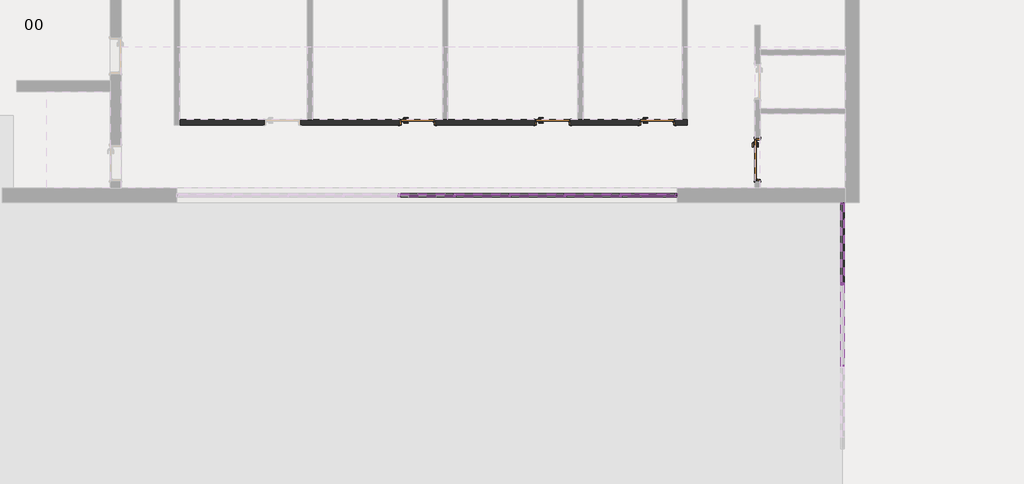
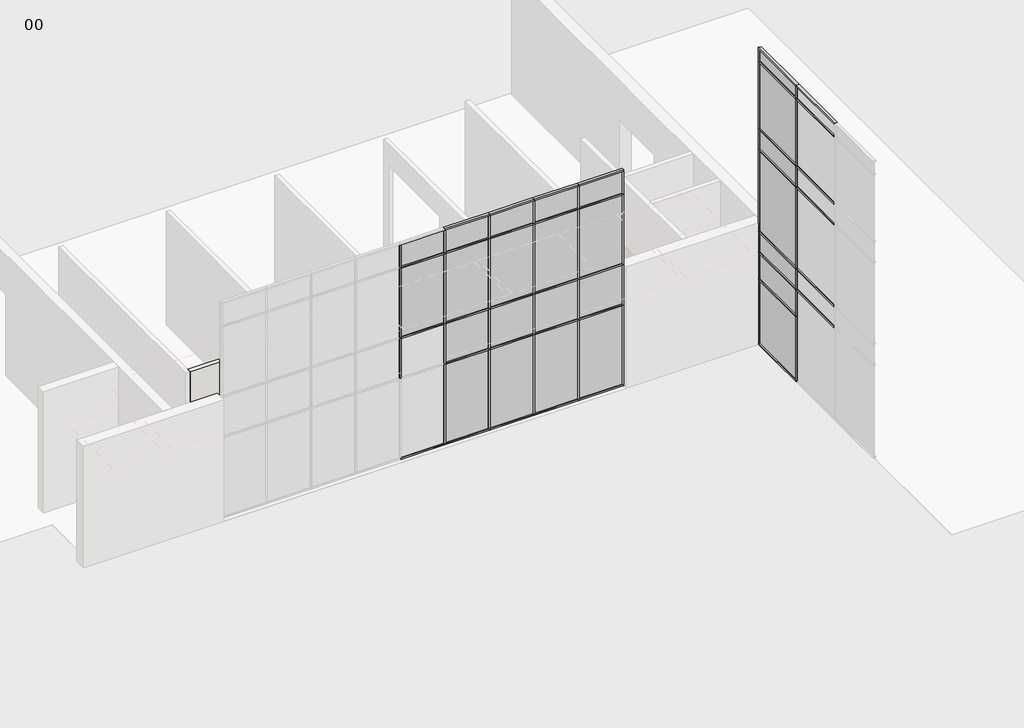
# One storey, part 3 of 11: 74 members, 25 plates, 4 doors, 1 wall.
"""IFC4 building model written with IfcOpenShell, lengths in millimetres."""

from ifc_helpers import new_model, si_unit, origin, place, context, project, spatial, faceted_brep, transform, mapped, element, save
from components import doors_intsgl_1_1010x2110mm_12a6edaf, doors_intsgl_1_1200x2110mm_07b1b6db, rectangular_mullion_curtainwallmullion_rectangular_generic_5675a122, rectangular_mullion_curtainwallmullion_rectangular_generic_397fb318, rectangular_mullion_curtainwallmullion_rectangular_generic_8ae0e668, rectangular_mullion_curtainwallmullion_rectangular_generic_15c16c91, rectangular_mullion_curtainwallmullion_rectangular_generic_85ff6675, rectangular_mullion_curtainwallmullion_rectangular_generic_08fbcc14, rectangular_mullion_curtainwallmullion_rectangular_generic_672c12ae, rectangular_mullion_curtainwallmullion_rectangular_generic_83e55909, rectangular_mullion_curtainwallmullion_rectangular_generic_8792b306, rectangular_mullion_curtainwallmullion_rectangular_generic_adcf4dab, rectangular_mullion_curtainwallmullion_rectangular_generic_bca74f28, rectangular_mullion_curtainwallmullion_rectangular_generic_1467ba8b, rectangular_mullion_curtainwallmullion_rectangular_generic_1facc6e8, rectangular_mullion_curtainwallmullion_rectangular_generic_766165b3, rectangular_mullion_curtainwallmullion_rectangular_generic_b870b509, rectangular_mullion_curtainwallmullion_rectangular_generic_bb021e59, rectangular_mullion_curtainwallmullion_rectangular_generic_58e5e5d2, rectangular_mullion_curtainwallmullion_rectangular_generic_c971d07e, rectangular_mullion_curtainwallmullion_rectangular_generic_e6673756, rectangular_mullion_curtainwallmullion_rectangular_generic_63c9f2cf, rectangular_mullion_curtainwallmullion_rectangular_generic_d70bf6dd, rectangular_mullion_curtainwallmullion_rectangular_generic_654ac675, rectangular_mullion_curtainwallmullion_rectangular_generic_e7c47ca9, rectangular_mullion_curtainwallmullion_rectangular_generic_f3eef52e, rectangular_mullion_curtainwallmullion_rectangular_generic_c0600e94, rectangular_mullion_curtainwallmullion_rectangular_generic_0bcd7f07, rectangular_mullion_curtainwallmullion_rectangular_generic_3bdb59d8, system_panel_curtainpanel_glazed_2a823346, system_panel_curtainpanel_glazed_29dab1f5, system_panel_curtainpanel_glazed_21ea604a, system_panel_curtainpanel_glazed_8c8521e7, system_panel_curtainpanel_glazed_c680861d, system_panel_curtainpanel_glazed_7c054268, system_panel_curtainpanel_solid_7e97e8f3, system_panel_curtainpanel_solid_a1b8920c, system_panel_curtainpanel_solid_5b00d7df, system_panel_curtainpanel_solid_a154ba9f

model = new_model("IFC4")

# Units and contexts
model_context = context("Model", 3, world=origin())
ifc_project = project(units=[si_unit("LENGTHUNIT", "METRE", prefix="MILLI")], contexts=[model_context])

# Site, building, storey
site = spatial("IfcSite", under=ifc_project)
building = spatial("IfcBuilding", under=site)
storey = spatial("IfcBuildingStorey", under=building, Name="00", Elevation=0.0)

# Doors
placement = place(None, origin())
doors_intsgl_1_1010x2110mm_shape = doors_intsgl_1_1010x2110mm_12a6edaf(model_context)
element("IfcDoor", 1, ObjectType="Doors_IntSgl_1 : 1010x2110mm", at=placement, inside=storey, context=model_context, shape_type="MappedRepresentation", body=[
    mapped(doors_intsgl_1_1010x2110mm_shape, transform((433683.3206883, -394469.0026386, 0.0), x_axis=(1.0, 0.0, 0.0), y_axis=(0.0, 1.0, 0.0), z_axis=(0.0, 0.0, 1.0))),
])
element("IfcDoor", 2, ObjectType="Doors_IntSgl_1 : 1010x2110mm", at=placement, inside=storey, context=model_context, shape_type="MappedRepresentation", body=[
    mapped(doors_intsgl_1_1010x2110mm_shape, transform((437493.3206883, -394469.0026386, 0.0), x_axis=(1.0, 0.0, 0.0), y_axis=(0.0, 1.0, 0.0), z_axis=(0.0, 0.0, 1.0))),
])
element("IfcDoor", 3, ObjectType="Doors_IntSgl_1 : 1010x2110mm", at=placement, inside=storey, context=model_context, shape_type="MappedRepresentation", body=[
    mapped(doors_intsgl_1_1010x2110mm_shape, transform((440437.3206883, -394469.0026386, 0.0), x_axis=(1.0, 0.0, 0.0), y_axis=(0.0, 1.0, 0.0), z_axis=(0.0, 0.0, 1.0))),
])
doors_intsgl_1_1200x2110mm_shape = doors_intsgl_1_1200x2110mm_07b1b6db(model_context)
element("IfcDoor", 4, ObjectType="Doors_IntSgl_1 : 1200x2110mm", at=placement, inside=storey, context=model_context, shape_type="MappedRepresentation", body=[
    mapped(doors_intsgl_1_1200x2110mm_shape, transform((443263.3206883, -395528.0026386, 0.0), x_axis=(0.0, -1.0, 0.0), y_axis=(1.0, 0.0, 0.0), z_axis=(0.0, 0.0, 1.0))),
])

# Members
rectangular_mullion_curtainwallmullion_rectangular_generic_shape = rectangular_mullion_curtainwallmullion_rectangular_generic_5675a122(model_context)
element("IfcMember", 5, ObjectType="Rectangular Mullion : CurtainWallMullion_Rectangular_Generic", at=placement, inside=storey, context=model_context, shape_type="MappedRepresentation", body=[
    mapped(rectangular_mullion_curtainwallmullion_rectangular_generic_shape, transform((445668.3206883, -399032.2026388, 50.0), x_axis=(0.0, 1.0, 0.0), y_axis=(1.0, 0.0, 0.0), z_axis=(0.0, 0.0, -1.0))),
])
rectangular_mullion_curtainwallmullion_rectangular_generic_2_shape = rectangular_mullion_curtainwallmullion_rectangular_generic_397fb318(model_context)
element("IfcMember", 6, ObjectType="Rectangular Mullion : CurtainWallMullion_Rectangular_Generic", at=placement, inside=storey, context=model_context, shape_type="MappedRepresentation", body=[
    mapped(rectangular_mullion_curtainwallmullion_rectangular_generic_2_shape, transform((445668.3206883, -396730.0026386, 50.0), x_axis=(0.0, 1.0, 0.0), y_axis=(1.0, 0.0, 0.0), z_axis=(0.0, 0.0, -1.0))),
])
rectangular_mullion_curtainwallmullion_rectangular_generic_3_shape = rectangular_mullion_curtainwallmullion_rectangular_generic_8ae0e668(model_context)
element("IfcMember", 7, ObjectType="Rectangular Mullion : CurtainWallMullion_Rectangular_Generic", at=placement, inside=storey, context=model_context, shape_type="MappedRepresentation", body=[
    mapped(rectangular_mullion_curtainwallmullion_rectangular_generic_3_shape, transform((445668.3206883, -399032.2026388, 10486.7), x_axis=(0.0, 1.0, 0.0), y_axis=(1.0, 0.0, 0.0), z_axis=(0.0, 0.0, -1.0))),
])
rectangular_mullion_curtainwallmullion_rectangular_generic_4_shape = rectangular_mullion_curtainwallmullion_rectangular_generic_15c16c91(model_context)
element("IfcMember", 8, ObjectType="Rectangular Mullion : CurtainWallMullion_Rectangular_Generic", at=placement, inside=storey, context=model_context, shape_type="MappedRepresentation", body=[
    mapped(rectangular_mullion_curtainwallmullion_rectangular_generic_4_shape, transform((445668.3206883, -396730.0026386, 10486.7), x_axis=(0.0, 1.0, 0.0), y_axis=(1.0, 0.0, 0.0), z_axis=(0.0, 0.0, -1.0))),
])
rectangular_mullion_curtainwallmullion_rectangular_generic_5_shape = rectangular_mullion_curtainwallmullion_rectangular_generic_85ff6675(model_context)
element("IfcMember", 9, ObjectType="Rectangular Mullion : CurtainWallMullion_Rectangular_Generic", at=placement, inside=storey, context=model_context, shape_type="MappedRepresentation", body=[
    mapped(rectangular_mullion_curtainwallmullion_rectangular_generic_5_shape, transform((445668.3206883, -399032.2026388, 3425.0), x_axis=(0.0, 1.0, 0.0), y_axis=(1.0, 0.0, 0.0), z_axis=(0.0, 0.0, -1.0))),
])
element("IfcMember", 10, ObjectType="Rectangular Mullion : CurtainWallMullion_Rectangular_Generic", at=placement, inside=storey, context=model_context, shape_type="MappedRepresentation", body=[
    mapped(rectangular_mullion_curtainwallmullion_rectangular_generic_5_shape, transform((445668.3206883, -399032.2026388, 7225.0), x_axis=(0.0, 1.0, 0.0), y_axis=(1.0, 0.0, 0.0), z_axis=(0.0, 0.0, -1.0))),
])
rectangular_mullion_curtainwallmullion_rectangular_generic_6_shape = rectangular_mullion_curtainwallmullion_rectangular_generic_08fbcc14(model_context)
element("IfcMember", 11, ObjectType="Rectangular Mullion : CurtainWallMullion_Rectangular_Generic", at=placement, inside=storey, context=model_context, shape_type="MappedRepresentation", body=[
    mapped(rectangular_mullion_curtainwallmullion_rectangular_generic_6_shape, transform((445668.3206883, -399032.2026388, 8000.0), x_axis=(0.0, 1.0, 0.0), y_axis=(1.0, 0.0, 0.0), z_axis=(0.0, 0.0, -1.0))),
])
rectangular_mullion_curtainwallmullion_rectangular_generic_7_shape = rectangular_mullion_curtainwallmullion_rectangular_generic_672c12ae(model_context)
element("IfcMember", 12, ObjectType="Rectangular Mullion : CurtainWallMullion_Rectangular_Generic", at=placement, inside=storey, context=model_context, shape_type="MappedRepresentation", body=[
    mapped(rectangular_mullion_curtainwallmullion_rectangular_generic_7_shape, transform((445668.3206883, -396730.0026386, 7225.0), x_axis=(0.0, 1.0, 0.0), y_axis=(1.0, 0.0, 0.0), z_axis=(0.0, 0.0, -1.0))),
])
element("IfcMember", 13, ObjectType="Rectangular Mullion : CurtainWallMullion_Rectangular_Generic", at=placement, inside=storey, context=model_context, shape_type="MappedRepresentation", body=[
    mapped(rectangular_mullion_curtainwallmullion_rectangular_generic_7_shape, transform((445668.3206883, -396730.0026386, 3425.0), x_axis=(0.0, 1.0, 0.0), y_axis=(1.0, 0.0, 0.0), z_axis=(0.0, 0.0, -1.0))),
])
rectangular_mullion_curtainwallmullion_rectangular_generic_8_shape = rectangular_mullion_curtainwallmullion_rectangular_generic_83e55909(model_context)
element("IfcMember", 14, ObjectType="Rectangular Mullion : CurtainWallMullion_Rectangular_Generic", at=placement, inside=storey, context=model_context, shape_type="MappedRepresentation", body=[
    mapped(rectangular_mullion_curtainwallmullion_rectangular_generic_8_shape, transform((445668.3206883, -396730.0026386, 8000.0), x_axis=(0.0, 1.0, 0.0), y_axis=(1.0, 0.0, 0.0), z_axis=(0.0, 0.0, -1.0))),
])
rectangular_mullion_curtainwallmullion_rectangular_generic_9_shape = rectangular_mullion_curtainwallmullion_rectangular_generic_8792b306(model_context)
element("IfcMember", 15, ObjectType="Rectangular Mullion : CurtainWallMullion_Rectangular_Generic", at=placement, inside=storey, context=model_context, shape_type="MappedRepresentation", body=[
    mapped(rectangular_mullion_curtainwallmullion_rectangular_generic_9_shape, transform((445668.3206883, -399032.2026388, 4200.0), x_axis=(0.0, 1.0, 0.0), y_axis=(1.0, 0.0, 0.0), z_axis=(0.0, 0.0, -1.0))),
])
rectangular_mullion_curtainwallmullion_rectangular_generic_10_shape = rectangular_mullion_curtainwallmullion_rectangular_generic_adcf4dab(model_context)
element("IfcMember", 16, ObjectType="Rectangular Mullion : CurtainWallMullion_Rectangular_Generic", at=placement, inside=storey, context=model_context, shape_type="MappedRepresentation", body=[
    mapped(rectangular_mullion_curtainwallmullion_rectangular_generic_10_shape, transform((445668.3206883, -396730.0026386, 4200.0), x_axis=(0.0, 1.0, 0.0), y_axis=(1.0, 0.0, 0.0), z_axis=(0.0, 0.0, -1.0))),
])
rectangular_mullion_curtainwallmullion_rectangular_generic_11_shape = rectangular_mullion_curtainwallmullion_rectangular_generic_bca74f28(model_context)
element("IfcMember", 17, ObjectType="Rectangular Mullion : CurtainWallMullion_Rectangular_Generic", at=placement, inside=storey, context=model_context, shape_type="MappedRepresentation", body=[
    mapped(rectangular_mullion_curtainwallmullion_rectangular_generic_11_shape, transform((445668.3206883, -399032.2026388, 2425.0), x_axis=(0.0, 1.0, 0.0), y_axis=(1.0, 0.0, 0.0), z_axis=(0.0, 0.0, -1.0))),
])
rectangular_mullion_curtainwallmullion_rectangular_generic_12_shape = rectangular_mullion_curtainwallmullion_rectangular_generic_1467ba8b(model_context)
element("IfcMember", 18, ObjectType="Rectangular Mullion : CurtainWallMullion_Rectangular_Generic", at=placement, inside=storey, context=model_context, shape_type="MappedRepresentation", body=[
    mapped(rectangular_mullion_curtainwallmullion_rectangular_generic_12_shape, transform((445668.3206883, -396730.0026386, 2425.0), x_axis=(0.0, 1.0, 0.0), y_axis=(1.0, 0.0, 0.0), z_axis=(0.0, 0.0, -1.0))),
])
rectangular_mullion_curtainwallmullion_rectangular_generic_13_shape = rectangular_mullion_curtainwallmullion_rectangular_generic_1facc6e8(model_context)
element("IfcMember", 19, ObjectType="Rectangular Mullion : CurtainWallMullion_Rectangular_Generic", at=placement, inside=storey, context=model_context, shape_type="MappedRepresentation", body=[
    mapped(rectangular_mullion_curtainwallmullion_rectangular_generic_13_shape, transform((445668.3206883, -396730.0026386, 11000.0), x_axis=(0.0, 0.0, 1.0), y_axis=(1.0, 0.0, 0.0), z_axis=(0.0, 1.0, 0.0))),
])
rectangular_mullion_curtainwallmullion_rectangular_generic_14_shape = rectangular_mullion_curtainwallmullion_rectangular_generic_766165b3(model_context)
element("IfcMember", 20, ObjectType="Rectangular Mullion : CurtainWallMullion_Rectangular_Generic", at=placement, inside=storey, context=model_context, shape_type="MappedRepresentation", body=[
    mapped(rectangular_mullion_curtainwallmullion_rectangular_generic_14_shape, transform((445668.3206883, -399032.2026388, 11000.0), x_axis=(0.0, 0.0, 1.0), y_axis=(1.0, 0.0, 0.0), z_axis=(0.0, 1.0, 0.0))),
])
rectangular_mullion_curtainwallmullion_rectangular_generic_15_shape = rectangular_mullion_curtainwallmullion_rectangular_generic_b870b509(model_context)
element("IfcMember", 21, ObjectType="Rectangular Mullion : CurtainWallMullion_Rectangular_Generic", at=placement, inside=storey, context=model_context, shape_type="MappedRepresentation", body=[
    mapped(rectangular_mullion_curtainwallmullion_rectangular_generic_15_shape, transform((445668.3206883, -399057.2026388, 4200.0), x_axis=(0.0, 0.0, 1.0), y_axis=(1.0, 0.0, 0.0), z_axis=(0.0, 1.0, 0.0))),
])
element("IfcMember", 22, ObjectType="Rectangular Mullion : CurtainWallMullion_Rectangular_Generic", at=placement, inside=storey, context=model_context, shape_type="MappedRepresentation", body=[
    mapped(rectangular_mullion_curtainwallmullion_rectangular_generic_15_shape, transform((445668.3206883, -399057.2026388, 7225.0), x_axis=(0.0, 0.0, 1.0), y_axis=(1.0, 0.0, 0.0), z_axis=(0.0, 1.0, 0.0))),
])
element("IfcMember", 23, ObjectType="Rectangular Mullion : CurtainWallMullion_Rectangular_Generic", at=placement, inside=storey, context=model_context, shape_type="MappedRepresentation", body=[
    mapped(rectangular_mullion_curtainwallmullion_rectangular_generic_15_shape, transform((445668.3206883, -399057.2026388, 10486.7), x_axis=(0.0, 0.0, 1.0), y_axis=(1.0, 0.0, 0.0), z_axis=(0.0, 1.0, 0.0))),
])
element("IfcMember", 24, ObjectType="Rectangular Mullion : CurtainWallMullion_Rectangular_Generic", at=placement, inside=storey, context=model_context, shape_type="MappedRepresentation", body=[
    mapped(rectangular_mullion_curtainwallmullion_rectangular_generic_15_shape, transform((445668.3206883, -399057.2026388, 3425.0), x_axis=(0.0, 0.0, 1.0), y_axis=(1.0, 0.0, 0.0), z_axis=(0.0, 1.0, 0.0))),
])
element("IfcMember", 25, ObjectType="Rectangular Mullion : CurtainWallMullion_Rectangular_Generic", at=placement, inside=storey, context=model_context, shape_type="MappedRepresentation", body=[
    mapped(rectangular_mullion_curtainwallmullion_rectangular_generic_15_shape, transform((445668.3206883, -399057.2026388, 8000.0), x_axis=(0.0, 0.0, 1.0), y_axis=(1.0, 0.0, 0.0), z_axis=(0.0, 1.0, 0.0))),
])
element("IfcMember", 26, ObjectType="Rectangular Mullion : CurtainWallMullion_Rectangular_Generic", at=placement, inside=storey, context=model_context, shape_type="MappedRepresentation", body=[
    mapped(rectangular_mullion_curtainwallmullion_rectangular_generic_13_shape, transform((445668.3206883, -399032.2026388, 0.0), x_axis=(0.0, 0.0, -1.0), y_axis=(1.0, 0.0, 0.0), z_axis=(0.0, -1.0, 0.0))),
])
rectangular_mullion_curtainwallmullion_rectangular_generic_16_shape = rectangular_mullion_curtainwallmullion_rectangular_generic_bb021e59(model_context)
element("IfcMember", 27, ObjectType="Rectangular Mullion : CurtainWallMullion_Rectangular_Generic", at=placement, inside=storey, context=model_context, shape_type="MappedRepresentation", body=[
    mapped(rectangular_mullion_curtainwallmullion_rectangular_generic_16_shape, transform((445668.3206883, -396780.0026386, 2425.0), x_axis=(0.0, 0.0, 1.0), y_axis=(1.0, 0.0, 0.0), z_axis=(0.0, 1.0, 0.0))),
])
element("IfcMember", 28, ObjectType="Rectangular Mullion : CurtainWallMullion_Rectangular_Generic", at=placement, inside=storey, context=model_context, shape_type="MappedRepresentation", body=[
    mapped(rectangular_mullion_curtainwallmullion_rectangular_generic_16_shape, transform((445668.3206883, -396780.0026386, 4200.0), x_axis=(0.0, 0.0, 1.0), y_axis=(1.0, 0.0, 0.0), z_axis=(0.0, 1.0, 0.0))),
])
element("IfcMember", 29, ObjectType="Rectangular Mullion : CurtainWallMullion_Rectangular_Generic", at=placement, inside=storey, context=model_context, shape_type="MappedRepresentation", body=[
    mapped(rectangular_mullion_curtainwallmullion_rectangular_generic_16_shape, transform((445668.3206883, -396780.0026386, 7225.0), x_axis=(0.0, 0.0, 1.0), y_axis=(1.0, 0.0, 0.0), z_axis=(0.0, 1.0, 0.0))),
])
element("IfcMember", 30, ObjectType="Rectangular Mullion : CurtainWallMullion_Rectangular_Generic", at=placement, inside=storey, context=model_context, shape_type="MappedRepresentation", body=[
    mapped(rectangular_mullion_curtainwallmullion_rectangular_generic_16_shape, transform((445668.3206883, -396780.0026386, 10486.7), x_axis=(0.0, 0.0, 1.0), y_axis=(1.0, 0.0, 0.0), z_axis=(0.0, 1.0, 0.0))),
])
element("IfcMember", 31, ObjectType="Rectangular Mullion : CurtainWallMullion_Rectangular_Generic", at=placement, inside=storey, context=model_context, shape_type="MappedRepresentation", body=[
    mapped(rectangular_mullion_curtainwallmullion_rectangular_generic_16_shape, transform((445668.3206883, -396780.0026386, 3425.0), x_axis=(0.0, 0.0, 1.0), y_axis=(1.0, 0.0, 0.0), z_axis=(0.0, 1.0, 0.0))),
])
element("IfcMember", 32, ObjectType="Rectangular Mullion : CurtainWallMullion_Rectangular_Generic", at=placement, inside=storey, context=model_context, shape_type="MappedRepresentation", body=[
    mapped(rectangular_mullion_curtainwallmullion_rectangular_generic_16_shape, transform((445668.3206883, -396780.0026386, 8000.0), x_axis=(0.0, 0.0, 1.0), y_axis=(1.0, 0.0, 0.0), z_axis=(0.0, 1.0, 0.0))),
])
rectangular_mullion_curtainwallmullion_rectangular_generic_17_shape = rectangular_mullion_curtainwallmullion_rectangular_generic_58e5e5d2(model_context)
element("IfcMember", 33, ObjectType="Rectangular Mullion : CurtainWallMullion_Rectangular_Generic", at=placement, inside=storey, context=model_context, shape_type="MappedRepresentation", body=[
    mapped(rectangular_mullion_curtainwallmullion_rectangular_generic_17_shape, transform((439411.209577, -396529.0026386, 8000.0), x_axis=(0.0, 0.0, 1.0), y_axis=(0.0, 1.0, 0.0), z_axis=(-1.0, 0.0, 0.0))),
])
rectangular_mullion_curtainwallmullion_rectangular_generic_18_shape = rectangular_mullion_curtainwallmullion_rectangular_generic_c971d07e(model_context)
element("IfcMember", 34, ObjectType="Rectangular Mullion : CurtainWallMullion_Rectangular_Generic", at=placement, inside=storey, context=model_context, shape_type="MappedRepresentation", body=[
    mapped(rectangular_mullion_curtainwallmullion_rectangular_generic_18_shape, transform((437850.0984659, -396529.0026386, 8000.0), x_axis=(0.0, 0.0, 1.0), y_axis=(0.0, 1.0, 0.0), z_axis=(-1.0, 0.0, 0.0))),
])
element("IfcMember", 35, ObjectType="Rectangular Mullion : CurtainWallMullion_Rectangular_Generic", at=placement, inside=storey, context=model_context, shape_type="MappedRepresentation", body=[
    mapped(rectangular_mullion_curtainwallmullion_rectangular_generic_18_shape, transform((436288.9873549, -396529.0026386, 8000.0), x_axis=(0.0, 0.0, 1.0), y_axis=(0.0, 1.0, 0.0), z_axis=(-1.0, 0.0, 0.0))),
])
element("IfcMember", 36, ObjectType="Rectangular Mullion : CurtainWallMullion_Rectangular_Generic", at=placement, inside=storey, context=model_context, shape_type="MappedRepresentation", body=[
    mapped(rectangular_mullion_curtainwallmullion_rectangular_generic_18_shape, transform((434727.8762438, -396529.0026386, 8000.0), x_axis=(0.0, 0.0, 1.0), y_axis=(0.0, 1.0, 0.0), z_axis=(-1.0, 0.0, 0.0))),
])
element("IfcMember", 37, ObjectType="Rectangular Mullion : CurtainWallMullion_Rectangular_Generic", at=placement, inside=storey, context=model_context, shape_type="MappedRepresentation", body=[
    mapped(rectangular_mullion_curtainwallmullion_rectangular_generic_17_shape, transform((440997.3206883, -396529.0026386, 0.0), x_axis=(0.0, 0.0, -1.0), y_axis=(0.0, 1.0, 0.0), z_axis=(1.0, 0.0, 0.0))),
])
element("IfcMember", 38, ObjectType="Rectangular Mullion : CurtainWallMullion_Rectangular_Generic", at=placement, inside=storey, context=model_context, shape_type="MappedRepresentation", body=[
    mapped(rectangular_mullion_curtainwallmullion_rectangular_generic_18_shape, transform((439411.209577, -396529.0026386, 0.0), x_axis=(0.0, 0.0, -1.0), y_axis=(0.0, 1.0, 0.0), z_axis=(1.0, 0.0, 0.0))),
])
element("IfcMember", 39, ObjectType="Rectangular Mullion : CurtainWallMullion_Rectangular_Generic", at=placement, inside=storey, context=model_context, shape_type="MappedRepresentation", body=[
    mapped(rectangular_mullion_curtainwallmullion_rectangular_generic_18_shape, transform((437850.0984659, -396529.0026386, 0.0), x_axis=(0.0, 0.0, -1.0), y_axis=(0.0, 1.0, 0.0), z_axis=(1.0, 0.0, 0.0))),
])
element("IfcMember", 40, ObjectType="Rectangular Mullion : CurtainWallMullion_Rectangular_Generic", at=placement, inside=storey, context=model_context, shape_type="MappedRepresentation", body=[
    mapped(rectangular_mullion_curtainwallmullion_rectangular_generic_18_shape, transform((436288.9873549, -396529.0026386, 0.0), x_axis=(0.0, 0.0, -1.0), y_axis=(0.0, 1.0, 0.0), z_axis=(1.0, 0.0, 0.0))),
])
element("IfcMember", 41, ObjectType="Rectangular Mullion : CurtainWallMullion_Rectangular_Generic", at=placement, inside=storey, context=model_context, shape_type="MappedRepresentation", body=[
    mapped(rectangular_mullion_curtainwallmullion_rectangular_generic_18_shape, transform((434727.8762438, -396529.0026386, 0.0), x_axis=(0.0, 0.0, -1.0), y_axis=(0.0, 1.0, 0.0), z_axis=(1.0, 0.0, 0.0))),
])
rectangular_mullion_curtainwallmullion_rectangular_generic_19_shape = rectangular_mullion_curtainwallmullion_rectangular_generic_e6673756(model_context)
element("IfcMember", 42, ObjectType="Rectangular Mullion : CurtainWallMullion_Rectangular_Generic", at=placement, inside=storey, context=model_context, shape_type="MappedRepresentation", body=[
    mapped(rectangular_mullion_curtainwallmullion_rectangular_generic_19_shape, transform((439436.209577, -396529.0026386, 3000.0), x_axis=(0.0, 0.0, 1.0), y_axis=(0.0, 1.0, 0.0), z_axis=(-1.0, 0.0, 0.0))),
])
element("IfcMember", 43, ObjectType="Rectangular Mullion : CurtainWallMullion_Rectangular_Generic", at=placement, inside=storey, context=model_context, shape_type="MappedRepresentation", body=[
    mapped(rectangular_mullion_curtainwallmullion_rectangular_generic_19_shape, transform((437875.0984659, -396529.0026386, 3000.0), x_axis=(0.0, 0.0, 1.0), y_axis=(0.0, 1.0, 0.0), z_axis=(-1.0, 0.0, 0.0))),
])
element("IfcMember", 44, ObjectType="Rectangular Mullion : CurtainWallMullion_Rectangular_Generic", at=placement, inside=storey, context=model_context, shape_type="MappedRepresentation", body=[
    mapped(rectangular_mullion_curtainwallmullion_rectangular_generic_19_shape, transform((436313.9873549, -396529.0026386, 3000.0), x_axis=(0.0, 0.0, 1.0), y_axis=(0.0, 1.0, 0.0), z_axis=(-1.0, 0.0, 0.0))),
])
element("IfcMember", 45, ObjectType="Rectangular Mullion : CurtainWallMullion_Rectangular_Generic", at=placement, inside=storey, context=model_context, shape_type="MappedRepresentation", body=[
    mapped(rectangular_mullion_curtainwallmullion_rectangular_generic_19_shape, transform((434752.8762438, -396529.0026386, 3000.0), x_axis=(0.0, 0.0, 1.0), y_axis=(0.0, 1.0, 0.0), z_axis=(-1.0, 0.0, 0.0))),
])
element("IfcMember", 46, ObjectType="Rectangular Mullion : CurtainWallMullion_Rectangular_Generic", at=placement, inside=storey, context=model_context, shape_type="MappedRepresentation", body=[
    mapped(rectangular_mullion_curtainwallmullion_rectangular_generic_19_shape, transform((439436.209577, -396529.0026386, 4500.0), x_axis=(0.0, 0.0, 1.0), y_axis=(0.0, 1.0, 0.0), z_axis=(-1.0, 0.0, 0.0))),
])
element("IfcMember", 47, ObjectType="Rectangular Mullion : CurtainWallMullion_Rectangular_Generic", at=placement, inside=storey, context=model_context, shape_type="MappedRepresentation", body=[
    mapped(rectangular_mullion_curtainwallmullion_rectangular_generic_19_shape, transform((437875.0984659, -396529.0026386, 4500.0), x_axis=(0.0, 0.0, 1.0), y_axis=(0.0, 1.0, 0.0), z_axis=(-1.0, 0.0, 0.0))),
])
element("IfcMember", 48, ObjectType="Rectangular Mullion : CurtainWallMullion_Rectangular_Generic", at=placement, inside=storey, context=model_context, shape_type="MappedRepresentation", body=[
    mapped(rectangular_mullion_curtainwallmullion_rectangular_generic_19_shape, transform((436313.9873549, -396529.0026386, 4500.0), x_axis=(0.0, 0.0, 1.0), y_axis=(0.0, 1.0, 0.0), z_axis=(-1.0, 0.0, 0.0))),
])
element("IfcMember", 49, ObjectType="Rectangular Mullion : CurtainWallMullion_Rectangular_Generic", at=placement, inside=storey, context=model_context, shape_type="MappedRepresentation", body=[
    mapped(rectangular_mullion_curtainwallmullion_rectangular_generic_19_shape, transform((434752.8762438, -396529.0026386, 4500.0), x_axis=(0.0, 0.0, 1.0), y_axis=(0.0, 1.0, 0.0), z_axis=(-1.0, 0.0, 0.0))),
])
element("IfcMember", 50, ObjectType="Rectangular Mullion : CurtainWallMullion_Rectangular_Generic", at=placement, inside=storey, context=model_context, shape_type="MappedRepresentation", body=[
    mapped(rectangular_mullion_curtainwallmullion_rectangular_generic_19_shape, transform((433191.7651328, -396529.0026386, 4500.0), x_axis=(0.0, 0.0, 1.0), y_axis=(0.0, 1.0, 0.0), z_axis=(-1.0, 0.0, 0.0))),
])
element("IfcMember", 51, ObjectType="Rectangular Mullion : CurtainWallMullion_Rectangular_Generic", at=placement, inside=storey, context=model_context, shape_type="MappedRepresentation", body=[
    mapped(rectangular_mullion_curtainwallmullion_rectangular_generic_19_shape, transform((439436.209577, -396529.0026386, 7100.0), x_axis=(0.0, 0.0, 1.0), y_axis=(0.0, 1.0, 0.0), z_axis=(-1.0, 0.0, 0.0))),
])
element("IfcMember", 52, ObjectType="Rectangular Mullion : CurtainWallMullion_Rectangular_Generic", at=placement, inside=storey, context=model_context, shape_type="MappedRepresentation", body=[
    mapped(rectangular_mullion_curtainwallmullion_rectangular_generic_19_shape, transform((437875.0984659, -396529.0026386, 7100.0), x_axis=(0.0, 0.0, 1.0), y_axis=(0.0, 1.0, 0.0), z_axis=(-1.0, 0.0, 0.0))),
])
element("IfcMember", 53, ObjectType="Rectangular Mullion : CurtainWallMullion_Rectangular_Generic", at=placement, inside=storey, context=model_context, shape_type="MappedRepresentation", body=[
    mapped(rectangular_mullion_curtainwallmullion_rectangular_generic_19_shape, transform((436313.9873549, -396529.0026386, 7100.0), x_axis=(0.0, 0.0, 1.0), y_axis=(0.0, 1.0, 0.0), z_axis=(-1.0, 0.0, 0.0))),
])
element("IfcMember", 54, ObjectType="Rectangular Mullion : CurtainWallMullion_Rectangular_Generic", at=placement, inside=storey, context=model_context, shape_type="MappedRepresentation", body=[
    mapped(rectangular_mullion_curtainwallmullion_rectangular_generic_19_shape, transform((434752.8762438, -396529.0026386, 7100.0), x_axis=(0.0, 0.0, 1.0), y_axis=(0.0, 1.0, 0.0), z_axis=(-1.0, 0.0, 0.0))),
])
element("IfcMember", 55, ObjectType="Rectangular Mullion : CurtainWallMullion_Rectangular_Generic", at=placement, inside=storey, context=model_context, shape_type="MappedRepresentation", body=[
    mapped(rectangular_mullion_curtainwallmullion_rectangular_generic_19_shape, transform((433191.7651328, -396529.0026386, 7100.0), x_axis=(0.0, 0.0, 1.0), y_axis=(0.0, 1.0, 0.0), z_axis=(-1.0, 0.0, 0.0))),
])
rectangular_mullion_curtainwallmullion_rectangular_generic_20_shape = rectangular_mullion_curtainwallmullion_rectangular_generic_63c9f2cf(model_context)
element("IfcMember", 56, ObjectType="Rectangular Mullion : CurtainWallMullion_Rectangular_Generic", at=placement, inside=storey, context=model_context, shape_type="MappedRepresentation", body=[
    mapped(rectangular_mullion_curtainwallmullion_rectangular_generic_20_shape, transform((439411.209577, -396529.0026386, 7100.0), x_axis=(-1.0, 0.0, 0.0), y_axis=(0.0, 1.0, 0.0), z_axis=(0.0, 0.0, -1.0))),
])
element("IfcMember", 57, ObjectType="Rectangular Mullion : CurtainWallMullion_Rectangular_Generic", at=placement, inside=storey, context=model_context, shape_type="MappedRepresentation", body=[
    mapped(rectangular_mullion_curtainwallmullion_rectangular_generic_20_shape, transform((437850.0984659, -396529.0026386, 7100.0), x_axis=(-1.0, 0.0, 0.0), y_axis=(0.0, 1.0, 0.0), z_axis=(0.0, 0.0, -1.0))),
])
element("IfcMember", 58, ObjectType="Rectangular Mullion : CurtainWallMullion_Rectangular_Generic", at=placement, inside=storey, context=model_context, shape_type="MappedRepresentation", body=[
    mapped(rectangular_mullion_curtainwallmullion_rectangular_generic_20_shape, transform((436288.9873549, -396529.0026386, 7100.0), x_axis=(-1.0, 0.0, 0.0), y_axis=(0.0, 1.0, 0.0), z_axis=(0.0, 0.0, -1.0))),
])
element("IfcMember", 59, ObjectType="Rectangular Mullion : CurtainWallMullion_Rectangular_Generic", at=placement, inside=storey, context=model_context, shape_type="MappedRepresentation", body=[
    mapped(rectangular_mullion_curtainwallmullion_rectangular_generic_20_shape, transform((434727.8762438, -396529.0026386, 7100.0), x_axis=(-1.0, 0.0, 0.0), y_axis=(0.0, 1.0, 0.0), z_axis=(0.0, 0.0, -1.0))),
])
element("IfcMember", 60, ObjectType="Rectangular Mullion : CurtainWallMullion_Rectangular_Generic", at=placement, inside=storey, context=model_context, shape_type="MappedRepresentation", body=[
    mapped(rectangular_mullion_curtainwallmullion_rectangular_generic_20_shape, transform((433166.7651328, -396529.0026386, 7100.0), x_axis=(-1.0, 0.0, 0.0), y_axis=(0.0, 1.0, 0.0), z_axis=(0.0, 0.0, -1.0))),
])
rectangular_mullion_curtainwallmullion_rectangular_generic_21_shape = rectangular_mullion_curtainwallmullion_rectangular_generic_d70bf6dd(model_context)
element("IfcMember", 61, ObjectType="Rectangular Mullion : CurtainWallMullion_Rectangular_Generic", at=placement, inside=storey, context=model_context, shape_type="MappedRepresentation", body=[
    mapped(rectangular_mullion_curtainwallmullion_rectangular_generic_21_shape, transform((440997.3206883, -396529.0026386, 7950.0), x_axis=(1.0, 0.0, 0.0), y_axis=(0.0, 1.0, 0.0), z_axis=(0.0, 0.0, 1.0))),
])
rectangular_mullion_curtainwallmullion_rectangular_generic_22_shape = rectangular_mullion_curtainwallmullion_rectangular_generic_654ac675(model_context)
element("IfcMember", 62, ObjectType="Rectangular Mullion : CurtainWallMullion_Rectangular_Generic", at=placement, inside=storey, context=model_context, shape_type="MappedRepresentation", body=[
    mapped(rectangular_mullion_curtainwallmullion_rectangular_generic_22_shape, transform((439411.209577, -396529.0026386, 4500.0), x_axis=(-1.0, 0.0, 0.0), y_axis=(0.0, 1.0, 0.0), z_axis=(0.0, 0.0, -1.0))),
])
element("IfcMember", 63, ObjectType="Rectangular Mullion : CurtainWallMullion_Rectangular_Generic", at=placement, inside=storey, context=model_context, shape_type="MappedRepresentation", body=[
    mapped(rectangular_mullion_curtainwallmullion_rectangular_generic_22_shape, transform((437850.0984659, -396529.0026386, 4500.0), x_axis=(-1.0, 0.0, 0.0), y_axis=(0.0, 1.0, 0.0), z_axis=(0.0, 0.0, -1.0))),
])
element("IfcMember", 64, ObjectType="Rectangular Mullion : CurtainWallMullion_Rectangular_Generic", at=placement, inside=storey, context=model_context, shape_type="MappedRepresentation", body=[
    mapped(rectangular_mullion_curtainwallmullion_rectangular_generic_22_shape, transform((436288.9873549, -396529.0026386, 4500.0), x_axis=(-1.0, 0.0, 0.0), y_axis=(0.0, 1.0, 0.0), z_axis=(0.0, 0.0, -1.0))),
])
element("IfcMember", 65, ObjectType="Rectangular Mullion : CurtainWallMullion_Rectangular_Generic", at=placement, inside=storey, context=model_context, shape_type="MappedRepresentation", body=[
    mapped(rectangular_mullion_curtainwallmullion_rectangular_generic_22_shape, transform((434727.8762438, -396529.0026386, 4500.0), x_axis=(-1.0, 0.0, 0.0), y_axis=(0.0, 1.0, 0.0), z_axis=(0.0, 0.0, -1.0))),
])
element("IfcMember", 66, ObjectType="Rectangular Mullion : CurtainWallMullion_Rectangular_Generic", at=placement, inside=storey, context=model_context, shape_type="MappedRepresentation", body=[
    mapped(rectangular_mullion_curtainwallmullion_rectangular_generic_22_shape, transform((433166.7651328, -396529.0026386, 4500.0), x_axis=(-1.0, 0.0, 0.0), y_axis=(0.0, 1.0, 0.0), z_axis=(0.0, 0.0, -1.0))),
])
rectangular_mullion_curtainwallmullion_rectangular_generic_23_shape = rectangular_mullion_curtainwallmullion_rectangular_generic_e7c47ca9(model_context)
element("IfcMember", 67, ObjectType="Rectangular Mullion : CurtainWallMullion_Rectangular_Generic", at=placement, inside=storey, context=model_context, shape_type="MappedRepresentation", body=[
    mapped(rectangular_mullion_curtainwallmullion_rectangular_generic_23_shape, transform((440997.3206883, -396529.0026386, 7100.0), x_axis=(1.0, 0.0, 0.0), y_axis=(0.0, 1.0, 0.0), z_axis=(0.0, 0.0, 1.0))),
])
rectangular_mullion_curtainwallmullion_rectangular_generic_24_shape = rectangular_mullion_curtainwallmullion_rectangular_generic_f3eef52e(model_context)
element("IfcMember", 68, ObjectType="Rectangular Mullion : CurtainWallMullion_Rectangular_Generic", at=placement, inside=storey, context=model_context, shape_type="MappedRepresentation", body=[
    mapped(rectangular_mullion_curtainwallmullion_rectangular_generic_24_shape, transform((439411.209577, -396529.0026386, 50.0), x_axis=(-1.0, 0.0, 0.0), y_axis=(0.0, 1.0, 0.0), z_axis=(0.0, 0.0, -1.0))),
])
element("IfcMember", 69, ObjectType="Rectangular Mullion : CurtainWallMullion_Rectangular_Generic", at=placement, inside=storey, context=model_context, shape_type="MappedRepresentation", body=[
    mapped(rectangular_mullion_curtainwallmullion_rectangular_generic_24_shape, transform((437850.0984659, -396529.0026386, 50.0), x_axis=(-1.0, 0.0, 0.0), y_axis=(0.0, 1.0, 0.0), z_axis=(0.0, 0.0, -1.0))),
])
element("IfcMember", 70, ObjectType="Rectangular Mullion : CurtainWallMullion_Rectangular_Generic", at=placement, inside=storey, context=model_context, shape_type="MappedRepresentation", body=[
    mapped(rectangular_mullion_curtainwallmullion_rectangular_generic_24_shape, transform((436288.9873549, -396529.0026386, 50.0), x_axis=(-1.0, 0.0, 0.0), y_axis=(0.0, 1.0, 0.0), z_axis=(0.0, 0.0, -1.0))),
])
element("IfcMember", 71, ObjectType="Rectangular Mullion : CurtainWallMullion_Rectangular_Generic", at=placement, inside=storey, context=model_context, shape_type="MappedRepresentation", body=[
    mapped(rectangular_mullion_curtainwallmullion_rectangular_generic_24_shape, transform((434727.8762438, -396529.0026386, 50.0), x_axis=(-1.0, 0.0, 0.0), y_axis=(0.0, 1.0, 0.0), z_axis=(0.0, 0.0, -1.0))),
])
rectangular_mullion_curtainwallmullion_rectangular_generic_25_shape = rectangular_mullion_curtainwallmullion_rectangular_generic_c0600e94(model_context)
element("IfcMember", 72, ObjectType="Rectangular Mullion : CurtainWallMullion_Rectangular_Generic", at=placement, inside=storey, context=model_context, shape_type="MappedRepresentation", body=[
    mapped(rectangular_mullion_curtainwallmullion_rectangular_generic_25_shape, transform((439411.209577, -396529.0026386, 3000.0), x_axis=(-1.0, 0.0, 0.0), y_axis=(0.0, 1.0, 0.0), z_axis=(0.0, 0.0, -1.0))),
])
element("IfcMember", 73, ObjectType="Rectangular Mullion : CurtainWallMullion_Rectangular_Generic", at=placement, inside=storey, context=model_context, shape_type="MappedRepresentation", body=[
    mapped(rectangular_mullion_curtainwallmullion_rectangular_generic_25_shape, transform((437850.0984659, -396529.0026386, 3000.0), x_axis=(-1.0, 0.0, 0.0), y_axis=(0.0, 1.0, 0.0), z_axis=(0.0, 0.0, -1.0))),
])
element("IfcMember", 74, ObjectType="Rectangular Mullion : CurtainWallMullion_Rectangular_Generic", at=placement, inside=storey, context=model_context, shape_type="MappedRepresentation", body=[
    mapped(rectangular_mullion_curtainwallmullion_rectangular_generic_25_shape, transform((436288.9873549, -396529.0026386, 3000.0), x_axis=(-1.0, 0.0, 0.0), y_axis=(0.0, 1.0, 0.0), z_axis=(0.0, 0.0, -1.0))),
])
element("IfcMember", 75, ObjectType="Rectangular Mullion : CurtainWallMullion_Rectangular_Generic", at=placement, inside=storey, context=model_context, shape_type="MappedRepresentation", body=[
    mapped(rectangular_mullion_curtainwallmullion_rectangular_generic_25_shape, transform((434727.8762438, -396529.0026386, 3000.0), x_axis=(-1.0, 0.0, 0.0), y_axis=(0.0, 1.0, 0.0), z_axis=(0.0, 0.0, -1.0))),
])
element("IfcMember", 76, ObjectType="Rectangular Mullion : CurtainWallMullion_Rectangular_Generic", at=placement, inside=storey, context=model_context, shape_type="MappedRepresentation", body=[
    mapped(rectangular_mullion_curtainwallmullion_rectangular_generic_25_shape, transform((433166.7651328, -396529.0026386, 3000.0), x_axis=(-1.0, 0.0, 0.0), y_axis=(0.0, 1.0, 0.0), z_axis=(0.0, 0.0, -1.0))),
])
rectangular_mullion_curtainwallmullion_rectangular_generic_26_shape = rectangular_mullion_curtainwallmullion_rectangular_generic_0bcd7f07(model_context)
element("IfcMember", 77, ObjectType="Rectangular Mullion : CurtainWallMullion_Rectangular_Generic", at=placement, inside=storey, context=model_context, shape_type="MappedRepresentation", body=[
    mapped(rectangular_mullion_curtainwallmullion_rectangular_generic_26_shape, transform((440997.3206883, -396529.0026386, 3000.0), x_axis=(1.0, 0.0, 0.0), y_axis=(0.0, 1.0, 0.0), z_axis=(0.0, 0.0, 1.0))),
])
rectangular_mullion_curtainwallmullion_rectangular_generic_27_shape = rectangular_mullion_curtainwallmullion_rectangular_generic_3bdb59d8(model_context)
element("IfcMember", 78, ObjectType="Rectangular Mullion : CurtainWallMullion_Rectangular_Generic", at=placement, inside=storey, context=model_context, shape_type="MappedRepresentation", body=[
    mapped(rectangular_mullion_curtainwallmullion_rectangular_generic_27_shape, transform((440997.3206883, -396529.0026386, 4500.0), x_axis=(1.0, 0.0, 0.0), y_axis=(0.0, 1.0, 0.0), z_axis=(0.0, 0.0, 1.0))),
])

# Plates
system_panel_curtainpanel_glazed_shape = system_panel_curtainpanel_glazed_2a823346(model_context)
element("IfcPlate", 79, ObjectType="System Panel : CurtainPanel_Glazed", at=placement, inside=storey, context=model_context, shape_type="MappedRepresentation", body=[
    mapped(system_panel_curtainpanel_glazed_shape, transform((445668.3206883, -397893.6026387, 50.0), x_axis=(0.0, 1.0, 0.0), y_axis=(-1.0, 0.0, 0.0), z_axis=(0.0, 0.0, 1.0))),
])
system_panel_curtainpanel_glazed_2_shape = system_panel_curtainpanel_glazed_29dab1f5(model_context)
element("IfcPlate", 80, ObjectType="System Panel : CurtainPanel_Glazed", at=placement, inside=storey, context=model_context, shape_type="MappedRepresentation", body=[
    mapped(system_panel_curtainpanel_glazed_2_shape, transform((445668.3206883, -397893.6026387, 2450.0), x_axis=(0.0, 1.0, 0.0), y_axis=(-1.0, 0.0, 0.0), z_axis=(0.0, 0.0, 1.0))),
])
system_panel_curtainpanel_glazed_3_shape = system_panel_curtainpanel_glazed_21ea604a(model_context)
element("IfcPlate", 81, ObjectType="System Panel : CurtainPanel_Glazed", at=placement, inside=storey, context=model_context, shape_type="MappedRepresentation", body=[
    mapped(system_panel_curtainpanel_glazed_3_shape, transform((445668.3206883, -397893.6026387, 4225.0), x_axis=(0.0, 1.0, 0.0), y_axis=(-1.0, 0.0, 0.0), z_axis=(0.0, 0.0, 1.0))),
])
system_panel_curtainpanel_glazed_4_shape = system_panel_curtainpanel_glazed_8c8521e7(model_context)
element("IfcPlate", 82, ObjectType="System Panel : CurtainPanel_Glazed", at=placement, inside=storey, context=model_context, shape_type="MappedRepresentation", body=[
    mapped(system_panel_curtainpanel_glazed_4_shape, transform((445668.3206883, -397893.6026387, 8025.0), x_axis=(0.0, 1.0, 0.0), y_axis=(-1.0, 0.0, 0.0), z_axis=(0.0, 0.0, 1.0))),
])
system_panel_curtainpanel_glazed_5_shape = system_panel_curtainpanel_glazed_c680861d(model_context)
element("IfcPlate", 83, ObjectType="System Panel : CurtainPanel_Glazed", at=placement, inside=storey, context=model_context, shape_type="MappedRepresentation", body=[
    mapped(system_panel_curtainpanel_glazed_5_shape, transform((440191.7651327, -396529.0026386, 4525.0), x_axis=(-1.0, 0.0, 0.0), y_axis=(0.0, -1.0, 0.0), z_axis=(0.0, 0.0, 1.0))),
])
element("IfcPlate", 84, ObjectType="System Panel : CurtainPanel_Glazed", at=placement, inside=storey, context=model_context, shape_type="MappedRepresentation", body=[
    mapped(system_panel_curtainpanel_glazed_5_shape, transform((438630.6540215, -396529.0026386, 4525.0), x_axis=(-1.0, 0.0, 0.0), y_axis=(0.0, -1.0, 0.0), z_axis=(0.0, 0.0, 1.0))),
])
element("IfcPlate", 85, ObjectType="System Panel : CurtainPanel_Glazed", at=placement, inside=storey, context=model_context, shape_type="MappedRepresentation", body=[
    mapped(system_panel_curtainpanel_glazed_5_shape, transform((437069.5429104, -396529.0026386, 4525.0), x_axis=(-1.0, 0.0, 0.0), y_axis=(0.0, -1.0, 0.0), z_axis=(0.0, 0.0, 1.0))),
])
element("IfcPlate", 86, ObjectType="System Panel : CurtainPanel_Glazed", at=placement, inside=storey, context=model_context, shape_type="MappedRepresentation", body=[
    mapped(system_panel_curtainpanel_glazed_5_shape, transform((435508.4317994, -396529.0026386, 4525.0), x_axis=(-1.0, 0.0, 0.0), y_axis=(0.0, -1.0, 0.0), z_axis=(0.0, 0.0, 1.0))),
])
element("IfcPlate", 87, ObjectType="System Panel : CurtainPanel_Glazed", at=placement, inside=storey, context=model_context, shape_type="MappedRepresentation", body=[
    mapped(system_panel_curtainpanel_glazed_5_shape, transform((433947.3206883, -396529.0026386, 4525.0), x_axis=(-1.0, 0.0, 0.0), y_axis=(0.0, -1.0, 0.0), z_axis=(0.0, 0.0, 1.0))),
])
system_panel_curtainpanel_glazed_6_shape = system_panel_curtainpanel_glazed_7c054268(model_context)
element("IfcPlate", 88, ObjectType="System Panel : CurtainPanel_Glazed", at=placement, inside=storey, context=model_context, shape_type="MappedRepresentation", body=[
    mapped(system_panel_curtainpanel_glazed_6_shape, transform((440191.7651327, -396529.0026386, 50.0), x_axis=(-1.0, 0.0, 0.0), y_axis=(0.0, -1.0, 0.0), z_axis=(0.0, 0.0, 1.0))),
])
element("IfcPlate", 89, ObjectType="System Panel : CurtainPanel_Glazed", at=placement, inside=storey, context=model_context, shape_type="MappedRepresentation", body=[
    mapped(system_panel_curtainpanel_glazed_6_shape, transform((438630.6540215, -396529.0026386, 50.0), x_axis=(-1.0, 0.0, 0.0), y_axis=(0.0, -1.0, 0.0), z_axis=(0.0, 0.0, 1.0))),
])
element("IfcPlate", 90, ObjectType="System Panel : CurtainPanel_Glazed", at=placement, inside=storey, context=model_context, shape_type="MappedRepresentation", body=[
    mapped(system_panel_curtainpanel_glazed_6_shape, transform((437069.5429104, -396529.0026386, 50.0), x_axis=(-1.0, 0.0, 0.0), y_axis=(0.0, -1.0, 0.0), z_axis=(0.0, 0.0, 1.0))),
])
element("IfcPlate", 91, ObjectType="System Panel : CurtainPanel_Glazed", at=placement, inside=storey, context=model_context, shape_type="MappedRepresentation", body=[
    mapped(system_panel_curtainpanel_glazed_6_shape, transform((435508.4317994, -396529.0026386, 50.0), x_axis=(-1.0, 0.0, 0.0), y_axis=(0.0, -1.0, 0.0), z_axis=(0.0, 0.0, 1.0))),
])
system_panel_curtainpanel_solid_shape = system_panel_curtainpanel_solid_7e97e8f3(model_context)
element("IfcPlate", 92, ObjectType="System Panel : CurtainPanel_Solid", at=placement, inside=storey, context=model_context, shape_type="MappedRepresentation", body=[
    mapped(system_panel_curtainpanel_solid_shape, transform((445668.3206883, -397893.6026387, 3450.0), x_axis=(0.0, 1.0, 0.0), y_axis=(-1.0, 0.0, 0.0), z_axis=(0.0, 0.0, 1.0))),
])
element("IfcPlate", 93, ObjectType="System Panel : CurtainPanel_Solid", at=placement, inside=storey, context=model_context, shape_type="MappedRepresentation", body=[
    mapped(system_panel_curtainpanel_solid_shape, transform((445668.3206883, -397893.6026387, 7250.0), x_axis=(0.0, 1.0, 0.0), y_axis=(-1.0, 0.0, 0.0), z_axis=(0.0, 0.0, 1.0))),
])
system_panel_curtainpanel_solid_2_shape = system_panel_curtainpanel_solid_a1b8920c(model_context)
element("IfcPlate", 94, ObjectType="System Panel : CurtainPanel_Solid", at=placement, inside=storey, context=model_context, shape_type="MappedRepresentation", body=[
    mapped(system_panel_curtainpanel_solid_2_shape, transform((445668.3206883, -397893.6026387, 10511.7), x_axis=(0.0, 1.0, 0.0), y_axis=(-1.0, 0.0, 0.0), z_axis=(0.0, 0.0, 1.0))),
])
system_panel_curtainpanel_solid_3_shape = system_panel_curtainpanel_solid_5b00d7df(model_context)
element("IfcPlate", 95, ObjectType="System Panel : CurtainPanel_Solid", at=placement, inside=storey, context=model_context, shape_type="MappedRepresentation", body=[
    mapped(system_panel_curtainpanel_solid_3_shape, transform((440191.7651327, -396529.0026386, 7125.0), x_axis=(-1.0, 0.0, 0.0), y_axis=(0.0, -1.0, 0.0), z_axis=(0.0, 0.0, 1.0))),
])
element("IfcPlate", 96, ObjectType="System Panel : CurtainPanel_Solid", at=placement, inside=storey, context=model_context, shape_type="MappedRepresentation", body=[
    mapped(system_panel_curtainpanel_solid_3_shape, transform((438630.6540215, -396529.0026386, 7125.0), x_axis=(-1.0, 0.0, 0.0), y_axis=(0.0, -1.0, 0.0), z_axis=(0.0, 0.0, 1.0))),
])
element("IfcPlate", 97, ObjectType="System Panel : CurtainPanel_Solid", at=placement, inside=storey, context=model_context, shape_type="MappedRepresentation", body=[
    mapped(system_panel_curtainpanel_solid_3_shape, transform((437069.5429104, -396529.0026386, 7125.0), x_axis=(-1.0, 0.0, 0.0), y_axis=(0.0, -1.0, 0.0), z_axis=(0.0, 0.0, 1.0))),
])
element("IfcPlate", 98, ObjectType="System Panel : CurtainPanel_Solid", at=placement, inside=storey, context=model_context, shape_type="MappedRepresentation", body=[
    mapped(system_panel_curtainpanel_solid_3_shape, transform((435508.4317994, -396529.0026386, 7125.0), x_axis=(-1.0, 0.0, 0.0), y_axis=(0.0, -1.0, 0.0), z_axis=(0.0, 0.0, 1.0))),
])
element("IfcPlate", 99, ObjectType="System Panel : CurtainPanel_Solid", at=placement, inside=storey, context=model_context, shape_type="MappedRepresentation", body=[
    mapped(system_panel_curtainpanel_solid_3_shape, transform((433947.3206883, -396529.0026386, 7125.0), x_axis=(-1.0, 0.0, 0.0), y_axis=(0.0, -1.0, 0.0), z_axis=(0.0, 0.0, 1.0))),
])
system_panel_curtainpanel_solid_4_shape = system_panel_curtainpanel_solid_a154ba9f(model_context)
element("IfcPlate", 100, ObjectType="System Panel : CurtainPanel_Solid", at=placement, inside=storey, context=model_context, shape_type="MappedRepresentation", body=[
    mapped(system_panel_curtainpanel_solid_4_shape, transform((440191.7651327, -396529.0026386, 3025.0), x_axis=(-1.0, 0.0, 0.0), y_axis=(0.0, -1.0, 0.0), z_axis=(0.0, 0.0, 1.0))),
])
element("IfcPlate", 101, ObjectType="System Panel : CurtainPanel_Solid", at=placement, inside=storey, context=model_context, shape_type="MappedRepresentation", body=[
    mapped(system_panel_curtainpanel_solid_4_shape, transform((438630.6540215, -396529.0026386, 3025.0), x_axis=(-1.0, 0.0, 0.0), y_axis=(0.0, -1.0, 0.0), z_axis=(0.0, 0.0, 1.0))),
])
element("IfcPlate", 102, ObjectType="System Panel : CurtainPanel_Solid", at=placement, inside=storey, context=model_context, shape_type="MappedRepresentation", body=[
    mapped(system_panel_curtainpanel_solid_4_shape, transform((437069.5429104, -396529.0026386, 3025.0), x_axis=(-1.0, 0.0, 0.0), y_axis=(0.0, -1.0, 0.0), z_axis=(0.0, 0.0, 1.0))),
])
element("IfcPlate", 103, ObjectType="System Panel : CurtainPanel_Solid", at=placement, inside=storey, context=model_context, shape_type="MappedRepresentation", body=[
    mapped(system_panel_curtainpanel_solid_4_shape, transform((435508.4317994, -396529.0026386, 3025.0), x_axis=(-1.0, 0.0, 0.0), y_axis=(0.0, -1.0, 0.0), z_axis=(0.0, 0.0, 1.0))),
])

# Wall
element("IfcWall", 104, ObjectType="Wall_Interior_WSUK", at=placement, inside=storey, context=model_context, shape_type="Brep", body=[
    faceted_brep([(441292.3206883, -394394.0026386, 4200.0), (441292.3206883, -394394.0026386, 0.0), (441142.3206883, -394394.0026386, 0.0), (440942.3206883, -394394.0026386, 0.0), (440942.3206883, -394394.0026386, 2110.0), (439932.3206883, -394394.0026386, 2110.0), (439932.3206883, -394394.0026386, 0.0), (438348.3206883, -394394.0026386, 0.0), (438198.3206883, -394394.0026386, 0.0), (437998.3206883, -394394.0026386, 0.0), (437998.3206883, -394394.0026386, 2110.0), (436988.3206883, -394394.0026386, 2110.0), (436988.3206883, -394394.0026386, 0.0), (434538.3206883, -394394.0026386, 0.0), (434388.3206883, -394394.0026386, 0.0), (434188.3206883, -394394.0026386, 0.0), (434188.3206883, -394394.0026386, 2110.0), (433178.3206883, -394394.0026386, 2110.0), (433178.3206883, -394394.0026386, 0.0), (430728.3206883, -394394.0026386, 0.0), (430578.3206883, -394394.0026386, 0.0), (430378.3206883, -394394.0026386, 0.0), (430378.3206883, -394394.0026386, 2110.0), (429368.3206883, -394394.0026386, 2110.0), (429368.3206883, -394394.0026386, 0.0), (426972.3206883, -394394.0026386, 0.0), (426972.3206883, -394394.0026386, 4200.0), (430578.3206883, -394394.0026386, 4200.0), (430728.3206883, -394394.0026386, 4200.0), (434388.3206883, -394394.0026386, 4200.0), (434538.3206883, -394394.0026386, 4200.0), (438198.3206883, -394394.0026386, 4200.0), (438348.3206883, -394394.0026386, 4200.0), (441292.3206883, -394544.0026386, 0.0), (441292.3206883, -394544.0026386, 4200.0), (426972.3206883, -394544.0026386, 4200.0), (426972.3206883, -394544.0026386, 0.0), (429368.3206883, -394544.0026386, 0.0), (429368.3206883, -394544.0026386, 2110.0), (430378.3206883, -394544.0026386, 2110.0), (430378.3206883, -394544.0026386, 0.0), (433178.3206883, -394544.0026386, 0.0), (433178.3206883, -394544.0026386, 2110.0), (434188.3206883, -394544.0026386, 2110.0), (434188.3206883, -394544.0026386, 0.0), (436988.3206883, -394544.0026386, 0.0), (436988.3206883, -394544.0026386, 2110.0), (437998.3206883, -394544.0026386, 2110.0), (437998.3206883, -394544.0026386, 0.0), (439932.3206883, -394544.0026386, 0.0), (439932.3206883, -394544.0026386, 2110.0), (440942.3206883, -394544.0026386, 2110.0), (440942.3206883, -394544.0026386, 0.0)], [[[0, 1, 2, 3, 4, 5, 6, 7, 8, 9, 10, 11, 12, 13, 14, 15, 16, 17, 18, 19, 20, 21, 22, 23, 24, 25, 26, 27, 28, 29, 30, 31, 32]], [[33, 34, 35, 36, 37, 38, 39, 40, 41, 42, 43, 44, 45, 46, 47, 48, 49, 50, 51, 52]], [[1, 33, 52, 3, 2]], [[36, 25, 24, 37]], [[40, 21, 20, 19, 18, 41]], [[44, 15, 14, 13, 12, 45]], [[48, 9, 8, 7, 6, 49]], [[1, 0, 34, 33]], [[26, 25, 36, 35]], [[39, 22, 21, 40]], [[22, 39, 38, 23]], [[23, 38, 37, 24]], [[43, 16, 15, 44]], [[16, 43, 42, 17]], [[17, 42, 41, 18]], [[47, 10, 9, 48]], [[10, 47, 46, 11]], [[11, 46, 45, 12]], [[51, 4, 3, 52]], [[4, 51, 50, 5]], [[5, 50, 49, 6]], [[0, 32, 31, 30, 29, 28, 27, 26, 35, 34]]]),
])

save(model, "model.ifc")
